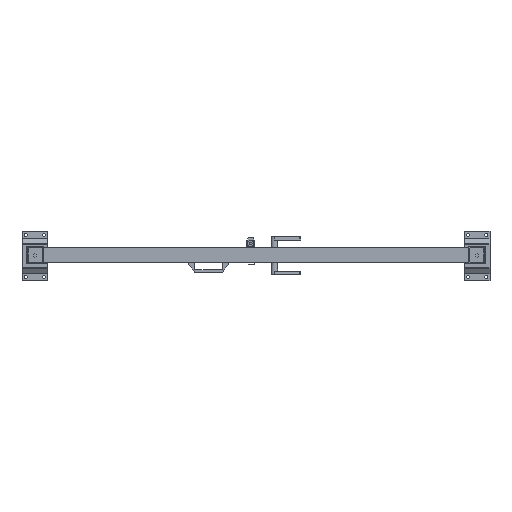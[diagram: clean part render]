
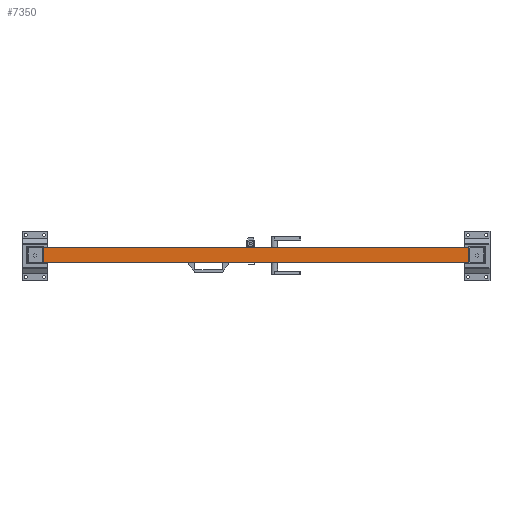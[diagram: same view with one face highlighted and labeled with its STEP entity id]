
A CAD part, top view. The second image highlights one B-rep face of the part: STEP entity #7350.
In plain terms, the highlighted planar face has unit normal (0, 0, 1).
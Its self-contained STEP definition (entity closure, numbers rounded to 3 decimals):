
#835=FACE_OUTER_BOUND('',#1223,.T.);
#1223=EDGE_LOOP('',(#5205,#5206,#5207,#5208));
#1701=LINE('',#10505,#2564);
#1702=LINE('',#10508,#2565);
#1703=LINE('',#10510,#2566);
#1704=LINE('',#10511,#2567);
#2564=VECTOR('',#8445,1.);
#2565=VECTOR('',#8448,1.);
#2566=VECTOR('',#8449,1.);
#2567=VECTOR('',#8450,1.);
#3404=VERTEX_POINT('',#10498);
#3407=VERTEX_POINT('',#10503);
#3408=VERTEX_POINT('',#10507);
#3409=VERTEX_POINT('',#10509);
#4137=EDGE_CURVE('',#3404,#3407,#1701,.T.);
#4138=EDGE_CURVE('',#3408,#3404,#1702,.T.);
#4139=EDGE_CURVE('',#3409,#3407,#1703,.T.);
#4140=EDGE_CURVE('',#3408,#3409,#1704,.T.);
#5205=ORIENTED_EDGE('',*,*,#4138,.T.);
#5206=ORIENTED_EDGE('',*,*,#4137,.T.);
#5207=ORIENTED_EDGE('',*,*,#4139,.F.);
#5208=ORIENTED_EDGE('',*,*,#4140,.F.);
#7036=PLANE('',#7770);
#7350=ADVANCED_FACE('',(#835),#7036,.T.);
#7770=AXIS2_PLACEMENT_3D('',#10506,#8446,#8447);
#8445=DIRECTION('',(1.,0.,0.));
#8446=DIRECTION('center_axis',(0.,0.,1.));
#8447=DIRECTION('ref_axis',(0.,-1.,0.));
#8448=DIRECTION('',(0.,-1.,0.));
#8449=DIRECTION('',(0.,-1.,0.));
#8450=DIRECTION('',(1.,0.,0.));
#10498=CARTESIAN_POINT('',(2042.735,1594.412,2099.));
#10503=CARTESIAN_POINT('',(3682.735,1594.412,2099.));
#10505=CARTESIAN_POINT('',(2042.735,1594.412,2099.));
#10506=CARTESIAN_POINT('Origin',(2042.735,1654.412,2099.));
#10507=CARTESIAN_POINT('',(2042.735,1654.412,2099.));
#10508=CARTESIAN_POINT('',(2042.735,1654.412,2099.));
#10509=CARTESIAN_POINT('',(3682.735,1654.412,2099.));
#10510=CARTESIAN_POINT('',(3682.735,1654.412,2099.));
#10511=CARTESIAN_POINT('',(2042.735,1654.412,2099.));
